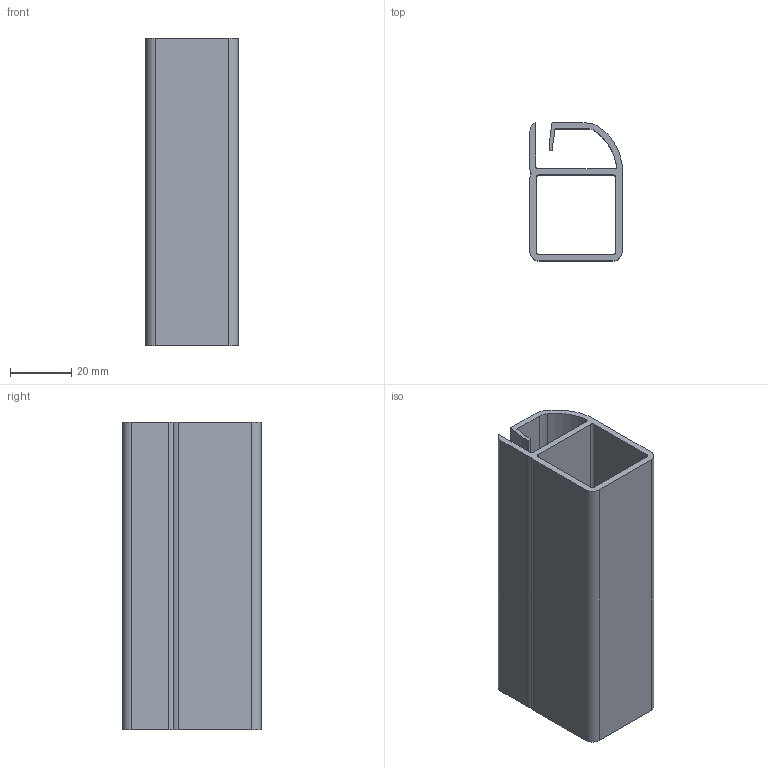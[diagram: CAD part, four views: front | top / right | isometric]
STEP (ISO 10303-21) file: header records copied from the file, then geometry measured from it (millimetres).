
FILE_DESCRIPTION (( 'STEP AP203' ), '1' );
FILE_NAME ('013.030.002.STEP', '2020-09-18T14:13:03', ( '' ), ( '' ), 'SwSTEP 2.0', 'SolidWorks 2018', '' );
FILE_SCHEMA (( 'CONFIG_CONTROL_DESIGN' ));
Length unit declared in the file: millimetre
Products named in the file (1): 013.030.002
Bounding box: 30 x 45 x 100 mm (x, y, z)
Volume: 31522.4 mm3; surface area: 32919.7 mm2
Topology: 1 solids, 1 shells, 39 faces, 111 edges, 74 vertices
Faces by surface type: plane 20, cylinder 17, bspline 2
Entity records: 1372 total; most frequent: CARTESIAN_POINT 251, ORIENTED_EDGE 222, DIRECTION 217, EDGE_CURVE 111, VERTEX_POINT 74, LINE 73, VECTOR 73, AXIS2_PLACEMENT_3D 72
